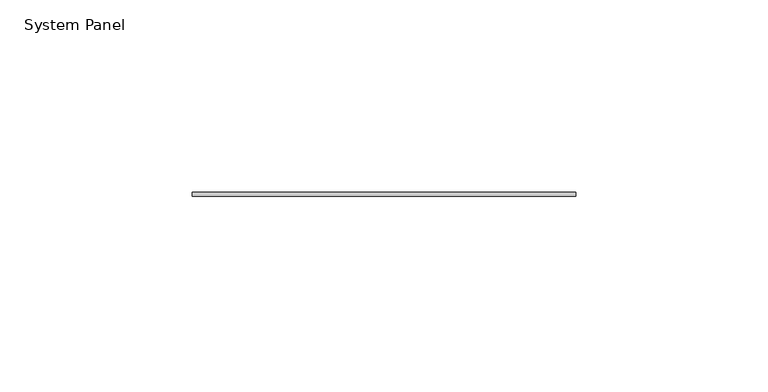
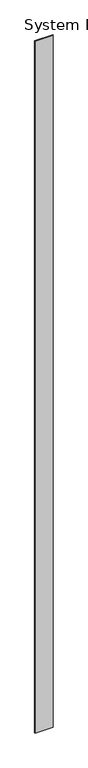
"""IFC4 building model written with IfcOpenShell, lengths in millimetres: plate geometry, System Panel : Stratco_Hiland_Tray."""

from ifc_helpers import new_model, si_unit, origin, origin_with_axes, place, context, project, spatial, polyline, outline, extrude, source, transform, mapped, element, save


def system_panel_26cb32c7(model_context):
    return source(origin(), model_context, "Body", "SweptSolid", [
        extrude(outline(polyline([(49.7485582, 2.5), (-49.7485582, 2.5), (-49.7485582, 3.5), (49.7485582, 3.5), (49.7485582, 2.5)])), origin_with_axes(), (0.0, 0.0, 1.0), 4000.0),
    ])


if __name__ == "__main__":
    model = new_model("IFC4")
    model_context = context("Model", 3, world=origin())
    ifc_project = project(units=[si_unit("LENGTHUNIT", "METRE", prefix="MILLI")], contexts=[model_context])
    site = spatial("IfcSite", under=ifc_project)
    building = spatial("IfcBuilding", under=site)
    placement = place(None, origin())
    system_panel_shape = system_panel_26cb32c7(model_context)
    element("IfcPlate", 1, ObjectType="System Panel : Stratco_Hiland_Tray", at=placement, inside=building, context=model_context, shape_type="MappedRepresentation", body=[
        mapped(system_panel_shape, transform((0.0, 0.0, 0.0), x_axis=(1.0, 0.0, 0.0), y_axis=(0.0, 1.0, 0.0), z_axis=(0.0, 0.0, 1.0))),
    ])
    save(model, "model.ifc")
